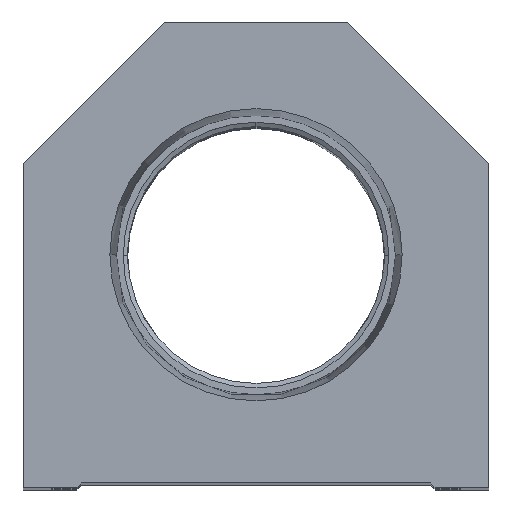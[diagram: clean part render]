
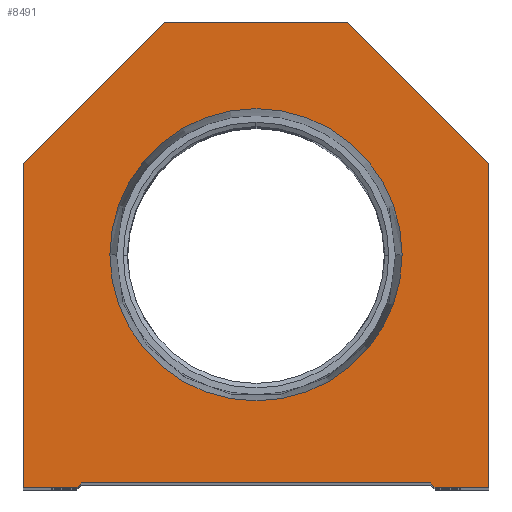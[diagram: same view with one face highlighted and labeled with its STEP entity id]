
A CAD part, top view. The second image highlights one B-rep face of the part: STEP entity #8491.
In plain terms, the highlighted planar face has unit normal (0, 0, 1).
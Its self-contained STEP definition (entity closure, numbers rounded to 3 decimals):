
#364 = ORIENTED_EDGE ( 'NONE', *, *, #4158, .T. ) ;
#995 = ORIENTED_EDGE ( 'NONE', *, *, #17668, .T. ) ;
#1533 = CARTESIAN_POINT ( 'NONE',  ( 19.05, 0., 0. ) ) ;
#1989 = PLANE ( 'NONE',  #8892 ) ;
#2129 = EDGE_CURVE ( 'NONE', #15349, #14665, #17889, .T. ) ;
#2231 = CARTESIAN_POINT ( 'NONE',  ( -25.4, 35.4, 0. ) ) ;
#2662 = DIRECTION ( 'NONE',  ( -0.707, -0.707, 0. ) ) ;
#3063 = VECTOR ( 'NONE', #17215, 1000. ) ;
#3117 = ORIENTED_EDGE ( 'NONE', *, *, #2129, .T. ) ;
#3261 = CARTESIAN_POINT ( 'NONE',  ( 25.4, 0., 0. ) ) ;
#3440 = VECTOR ( 'NONE', #15487, 1000. ) ;
#3763 = ORIENTED_EDGE ( 'NONE', *, *, #3936, .F. ) ;
#3932 = CARTESIAN_POINT ( 'NONE',  ( 0., 25.4, 0. ) ) ;
#3936 = EDGE_CURVE ( 'NONE', #6334, #14212, #6414, .T. ) ;
#3953 = LINE ( 'NONE', #8365, #14824 ) ;
#4128 = CARTESIAN_POINT ( 'NONE',  ( -15.947, 25.4, 0. ) ) ;
#4158 = EDGE_CURVE ( 'NONE', #15560, #10540, #12782, .T. ) ;
#4914 = VERTEX_POINT ( 'NONE', #8649 ) ;
#4944 = CARTESIAN_POINT ( 'NONE',  ( 15.947, 25.4, 0. ) ) ;
#5174 = DIRECTION ( 'NONE',  ( 0.707, 0.707, 0. ) ) ;
#5374 = DIRECTION ( 'NONE',  ( 0., 0., 1. ) ) ;
#5451 = LINE ( 'NONE', #11093, #6460 ) ;
#5772 = CARTESIAN_POINT ( 'NONE',  ( 25.4, 0., 0. ) ) ;
#5841 = ORIENTED_EDGE ( 'NONE', *, *, #7122, .T. ) ;
#6334 = VERTEX_POINT ( 'NONE', #4128 ) ;
#6414 = CIRCLE ( 'NONE', #11156, 15.947 ) ;
#6460 = VECTOR ( 'NONE', #5174, 1000. ) ;
#6720 = CARTESIAN_POINT ( 'NONE',  ( -19.55, 0., 0. ) ) ;
#6754 = CARTESIAN_POINT ( 'NONE',  ( 19.05, 0.5, 0. ) ) ;
#6807 = EDGE_CURVE ( 'NONE', #11057, #4914, #11956, .T. ) ;
#7122 = EDGE_CURVE ( 'NONE', #8810, #9151, #5451, .T. ) ;
#7210 = EDGE_LOOP ( 'NONE', ( #13443, #5841, #9449, #995, #7659, #364, #9534, #3117, #11014, #10807 ) ) ;
#7603 = CARTESIAN_POINT ( 'NONE',  ( 0., 25.4, 0. ) ) ;
#7659 = ORIENTED_EDGE ( 'NONE', *, *, #16885, .T. ) ;
#7747 = CIRCLE ( 'NONE', #8648, 15.947 ) ;
#7920 = VECTOR ( 'NONE', #14727, 1000. ) ;
#7938 = LINE ( 'NONE', #13587, #8276 ) ;
#7985 = VECTOR ( 'NONE', #16839, 1000. ) ;
#8175 = DIRECTION ( 'NONE',  ( 0., 1., 0. ) ) ;
#8276 = VECTOR ( 'NONE', #18172, 1000. ) ;
#8365 = CARTESIAN_POINT ( 'NONE',  ( 25.4, 35.4, 0. ) ) ;
#8491 = ADVANCED_FACE ( 'NONE', ( #17385, #14624 ), #1989, .T. ) ;
#8648 = AXIS2_PLACEMENT_3D ( 'NONE', #7603, #13253, #11964 ) ;
#8649 = CARTESIAN_POINT ( 'NONE',  ( -25.4, 0., 0. ) ) ;
#8794 = EDGE_CURVE ( 'NONE', #10540, #15349, #3953, .T. ) ;
#8810 = VERTEX_POINT ( 'NONE', #6720 ) ;
#8892 = AXIS2_PLACEMENT_3D ( 'NONE', #13799, #5374, #9707 ) ;
#9151 = VERTEX_POINT ( 'NONE', #11502 ) ;
#9311 = CARTESIAN_POINT ( 'NONE',  ( 9.775, 9.775, 0. ) ) ;
#9449 = ORIENTED_EDGE ( 'NONE', *, *, #17409, .T. ) ;
#9486 = CARTESIAN_POINT ( 'NONE',  ( -10., 50.8, 0. ) ) ;
#9534 = ORIENTED_EDGE ( 'NONE', *, *, #8794, .T. ) ;
#9707 = DIRECTION ( 'NONE',  ( 1., 0., 0. ) ) ;
#9717 = EDGE_CURVE ( 'NONE', #14212, #6334, #7747, .T. ) ;
#9735 = EDGE_CURVE ( 'NONE', #4914, #8810, #11870, .T. ) ;
#9795 = VECTOR ( 'NONE', #8175, 1000. ) ;
#10540 = VERTEX_POINT ( 'NONE', #14667 ) ;
#10587 = DIRECTION ( 'NONE',  ( 1., 0., 0. ) ) ;
#10722 = CARTESIAN_POINT ( 'NONE',  ( 19.55, 0., 0. ) ) ;
#10740 = CARTESIAN_POINT ( 'NONE',  ( -25.4, 0., 0. ) ) ;
#10807 = ORIENTED_EDGE ( 'NONE', *, *, #6807, .T. ) ;
#11014 = ORIENTED_EDGE ( 'NONE', *, *, #13374, .T. ) ;
#11057 = VERTEX_POINT ( 'NONE', #2231 ) ;
#11093 = CARTESIAN_POINT ( 'NONE',  ( -9.775, 9.775, 0. ) ) ;
#11156 = AXIS2_PLACEMENT_3D ( 'NONE', #3932, #12360, #10587 ) ;
#11502 = CARTESIAN_POINT ( 'NONE',  ( -19.05, 0.5, 0. ) ) ;
#11870 = LINE ( 'NONE', #17478, #3063 ) ;
#11890 = VERTEX_POINT ( 'NONE', #10722 ) ;
#11941 = VERTEX_POINT ( 'NONE', #6754 ) ;
#11956 = LINE ( 'NONE', #10740, #7920 ) ;
#11964 = DIRECTION ( 'NONE',  ( 1., 0., 0. ) ) ;
#12252 = ORIENTED_EDGE ( 'NONE', *, *, #9717, .F. ) ;
#12360 = DIRECTION ( 'NONE',  ( 0., 0., 1. ) ) ;
#12369 = LINE ( 'NONE', #17969, #15180 ) ;
#12782 = LINE ( 'NONE', #5772, #9795 ) ;
#13253 = DIRECTION ( 'NONE',  ( 0., 0., 1. ) ) ;
#13374 = EDGE_CURVE ( 'NONE', #14665, #11057, #12369, .T. ) ;
#13443 = ORIENTED_EDGE ( 'NONE', *, *, #9735, .T. ) ;
#13587 = CARTESIAN_POINT ( 'NONE',  ( -19.05, 0.5, 0. ) ) ;
#13799 = CARTESIAN_POINT ( 'NONE',  ( 0., 0., 0. ) ) ;
#13931 = DIRECTION ( 'NONE',  ( -0.707, 0.707, 0. ) ) ;
#14167 = LINE ( 'NONE', #1533, #14700 ) ;
#14212 = VERTEX_POINT ( 'NONE', #4944 ) ;
#14624 = FACE_OUTER_BOUND ( 'NONE', #7210, .T. ) ;
#14665 = VERTEX_POINT ( 'NONE', #9486 ) ;
#14667 = CARTESIAN_POINT ( 'NONE',  ( 25.4, 35.4, 0. ) ) ;
#14700 = VECTOR ( 'NONE', #16835, 1000. ) ;
#14727 = DIRECTION ( 'NONE',  ( 0., -1., 0. ) ) ;
#14824 = VECTOR ( 'NONE', #13931, 1000. ) ;
#15180 = VECTOR ( 'NONE', #2662, 1000. ) ;
#15320 = CARTESIAN_POINT ( 'NONE',  ( 10., 50.8, 0. ) ) ;
#15349 = VERTEX_POINT ( 'NONE', #16199 ) ;
#15487 = DIRECTION ( 'NONE',  ( -1., 0., 0. ) ) ;
#15560 = VERTEX_POINT ( 'NONE', #3261 ) ;
#16199 = CARTESIAN_POINT ( 'NONE',  ( 10., 50.8, 0. ) ) ;
#16835 = DIRECTION ( 'NONE',  ( 1., 0., 0. ) ) ;
#16839 = DIRECTION ( 'NONE',  ( 0.707, -0.707, 0. ) ) ;
#16885 = EDGE_CURVE ( 'NONE', #11890, #15560, #14167, .T. ) ;
#17041 = EDGE_LOOP ( 'NONE', ( #12252, #3763 ) ) ;
#17215 = DIRECTION ( 'NONE',  ( 1., 0., 0. ) ) ;
#17385 = FACE_BOUND ( 'NONE', #17041, .T. ) ;
#17409 = EDGE_CURVE ( 'NONE', #9151, #11941, #7938, .T. ) ;
#17478 = CARTESIAN_POINT ( 'NONE',  ( -19.05, 0., 0. ) ) ;
#17668 = EDGE_CURVE ( 'NONE', #11941, #11890, #17790, .T. ) ;
#17790 = LINE ( 'NONE', #9311, #7985 ) ;
#17889 = LINE ( 'NONE', #15320, #3440 ) ;
#17969 = CARTESIAN_POINT ( 'NONE',  ( -25.4, 35.4, 0. ) ) ;
#18172 = DIRECTION ( 'NONE',  ( 1., 0., 0. ) ) ;
